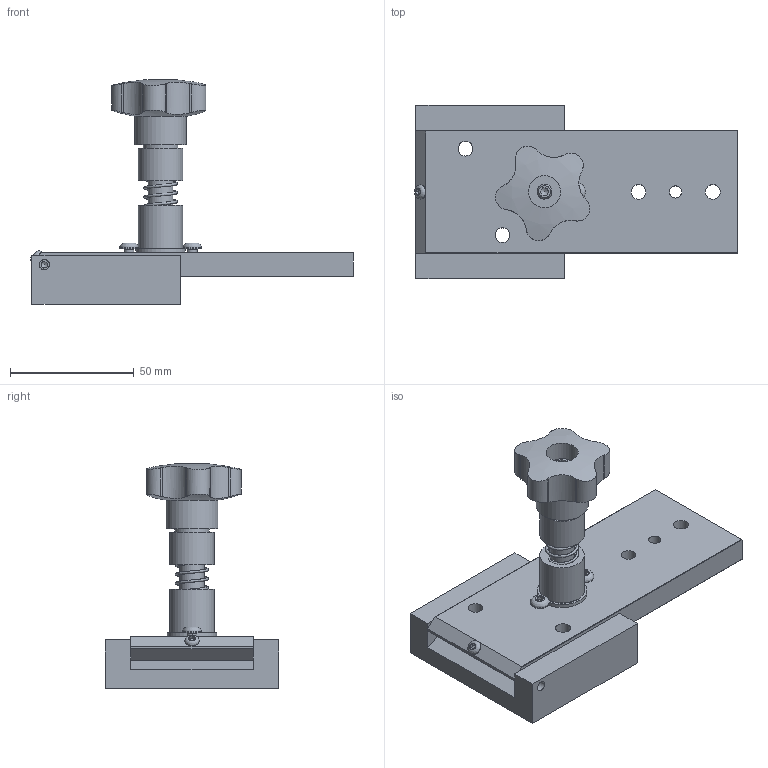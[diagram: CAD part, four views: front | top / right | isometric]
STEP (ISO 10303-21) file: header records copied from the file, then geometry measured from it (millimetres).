
FILE_DESCRIPTION(/* description */ (''),/* implementation_level */ '2;1');
FILE_NAME(/* name */ 'C:\Local Work Area\Progetti\AP\CALIBRI\265.00 RIBALTABILE LARG=50\265.00.stp',/* time_stamp */ '2021-03-09T14:04:57+01:00',/* author */ ('CAD5'),/* organization */ (''),/* preprocessor_version */ 'ST-DEVELOPER v18.1',/* originating_system */ 'Autodesk Inventor 2021',/* authorisation */ '');
FILE_SCHEMA (('AUTOMOTIVE_DESIGN { 1 0 10303 214 3 1 1 }'));
Length unit declared in the file: millimetre
Products named in the file (15): 265.00; 265.01; 265.02; 02.33; 255.00_ass manopola; 02.12; Manopola mecanoplastica 12010250; 02.10; 255.03.01; 255.03; UNI 5923 - M6 x 1 x 25; Vite STEI M6x50 UNI 5923; UNI 5923 - M5 x 0,8 x 12; UNI ISO 7380 - M4 x 8; Copia di ISO 7380 - M3 x 6
Assembly tree (16 placements, depth 4):
  265.00
    265.01
    265.02
    02.33
    255.00_ass manopola
      02.12
      Manopola mecanoplastica 12010250
      02.10
      255.03.01
        255.03
        UNI 5923 - M6 x 1 x 25
        Vite STEI M6x50 UNI 5923
    UNI 5923 - M5 x 0,8 x 12  x2
    UNI ISO 7380 - M4 x 8  x2
    Copia di ISO 7380 - M3 x 6
Bounding box: 130.58 x 70 x 90.71 mm (x, y, z)
Volume: 139436.8 mm3; surface area: 46926.6 mm2
Topology: 14 solids, 14 shells, 208 faces, 498 edges, 330 vertices
Faces by surface type: plane 111, cylinder 59, cone 27, bspline 6, torus 5
Full cylindrical faces by diameter (mm): 2.459 x1, 3 x1, 3.242 x2, 4 x2, 4.134 x2, 4.9 x2, 4.917 x5, 5 x2, 5.7 x1, 6 x11, 7.6 x2, 10 x1, 10.5 x3, 12 x2, 12.5 x1, 13 x1, 14 x2, 17 x2, 18 x2, 20 x1, 21 x1
Entity records: 6970 total; most frequent: CARTESIAN_POINT 2250, DIRECTION 893, ORIENTED_EDGE 848, EDGE_CURVE 424, AXIS2_PLACEMENT_3D 344, VERTEX_POINT 286, EDGE_LOOP 238, LINE 205
